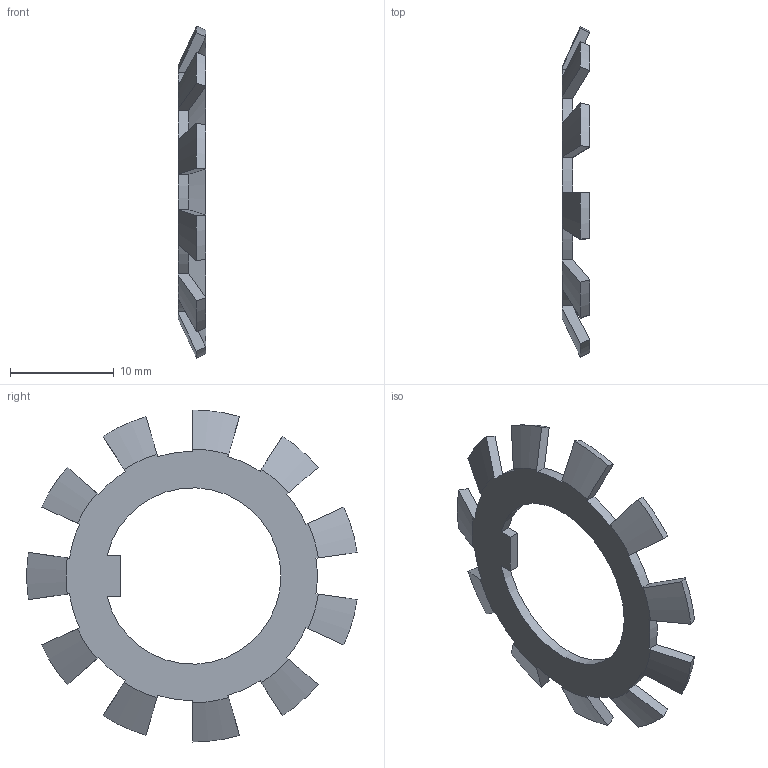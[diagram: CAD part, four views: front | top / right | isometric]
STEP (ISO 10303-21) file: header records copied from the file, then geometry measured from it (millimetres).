
FILE_DESCRIPTION(/* description */ ('잠금 와셔'),/* implementation_level */ '2;1');
FILE_NAME(/* name */ '',/* time_stamp */ '2025-03-10T16:37:22+09:00',/* author */ ('jhkim'),/* organization */ (''),/* preprocessor_version */ 'ST-DEVELOPER v20',/* originating_system */ 'Autodesk Inventor 2025',/* authorisation */ '');
FILE_SCHEMA (('AUTOMOTIVE_DESIGN { 1 0 10303 214 3 1 1 }'));
Length unit declared in the file: millimetre
Products named in the file (1): 베어링 너트용 와셔 
AW03X
Bounding box: 2.67 x 31.82 x 32 mm (x, y, z)
Volume: 413.2 mm3; surface area: 1061.3 mm2
Topology: 1 solids, 1 shells, 72 faces, 188 edges, 118 vertices
Faces by surface type: cone 33, plane 27, cylinder 12
Entity records: 2251 total; most frequent: DIRECTION 402, CARTESIAN_POINT 379, ORIENTED_EDGE 376, EDGE_CURVE 188, AXIS2_PLACEMENT_3D 141, LINE 120, VECTOR 120, VERTEX_POINT 118
